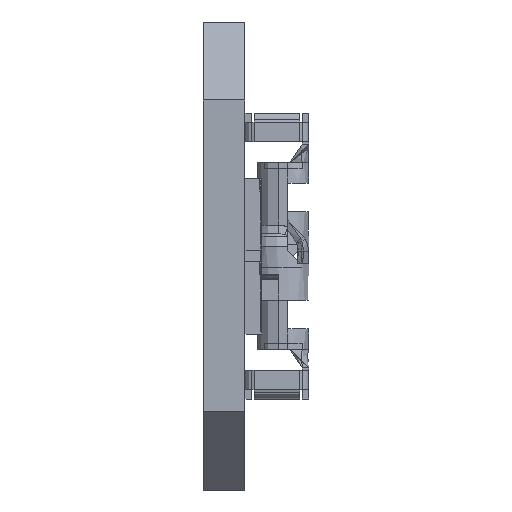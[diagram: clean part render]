
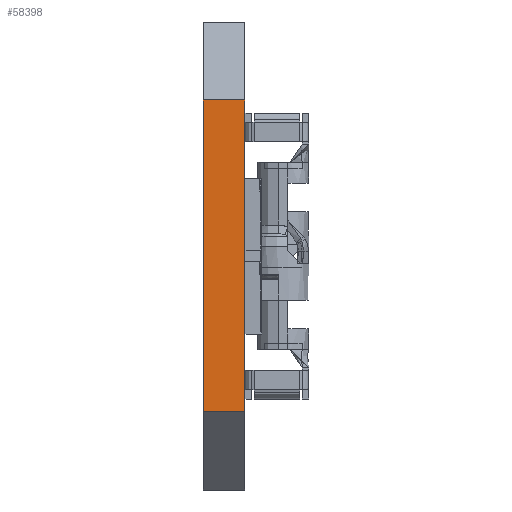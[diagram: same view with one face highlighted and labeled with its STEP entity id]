
A CAD part, left-side view. The second image highlights one B-rep face of the part: STEP entity #58398.
In plain terms, the highlighted planar face has unit normal (-1, 0, 0).
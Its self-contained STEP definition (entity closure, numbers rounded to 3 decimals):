
#1986=ORIENTED_EDGE('',*,*,#13773,.T.);
#1987=ORIENTED_EDGE('',*,*,#14122,.F.);
#1988=ORIENTED_EDGE('',*,*,#13983,.F.);
#1989=ORIENTED_EDGE('',*,*,#14123,.T.);
#13773=EDGE_CURVE('',#19942,#19941,#23951,.T.);
#13983=EDGE_CURVE('',#20151,#20152,#24080,.T.);
#14122=EDGE_CURVE('',#20152,#19941,#24190,.T.);
#14123=EDGE_CURVE('',#20151,#19942,#24191,.T.);
#19941=VERTEX_POINT('',#75323);
#19942=VERTEX_POINT('',#75325);
#20151=VERTEX_POINT('',#75744);
#20152=VERTEX_POINT('',#75746);
#23951=LINE('',#75324,#29503);
#24080=LINE('',#75745,#29632);
#24190=LINE('',#76014,#29742);
#24191=LINE('',#76016,#29743);
#29503=VECTOR('',#63914,1000.);
#29632=VECTOR('',#64207,1000.);
#29742=VECTOR('',#64519,1000.);
#29743=VECTOR('',#64522,1000.);
#34808=EDGE_LOOP('',(#1986,#1987,#1988,#1989));
#37458=FACE_BOUND('',#34808,.T.);
#39887=PLANE('',#60885);
#58398=ADVANCED_FACE('',(#37458),#39887,.F.);
#60885=AXIS2_PLACEMENT_3D('',#76015,#64520,#64521);
#63914=DIRECTION('',(0.,0.,1.));
#64207=DIRECTION('',(0.,0.,1.));
#64519=DIRECTION('',(0.,-1.,0.));
#64520=DIRECTION('',(1.,0.,0.));
#64521=DIRECTION('',(0.,0.,-1.));
#64522=DIRECTION('',(0.,-1.,0.));
#75323=CARTESIAN_POINT('',(-559.65,0.,6.));
#75324=CARTESIAN_POINT('',(-559.65,0.,-6.));
#75325=CARTESIAN_POINT('',(-559.65,0.,-6.));
#75744=CARTESIAN_POINT('',(-559.65,1.6,-6.));
#75745=CARTESIAN_POINT('',(-559.65,1.6,-6.));
#75746=CARTESIAN_POINT('',(-559.65,1.6,6.));
#76014=CARTESIAN_POINT('',(-559.65,1.6,6.));
#76015=CARTESIAN_POINT('',(-559.65,1.6,-6.));
#76016=CARTESIAN_POINT('',(-559.65,1.6,-6.));
